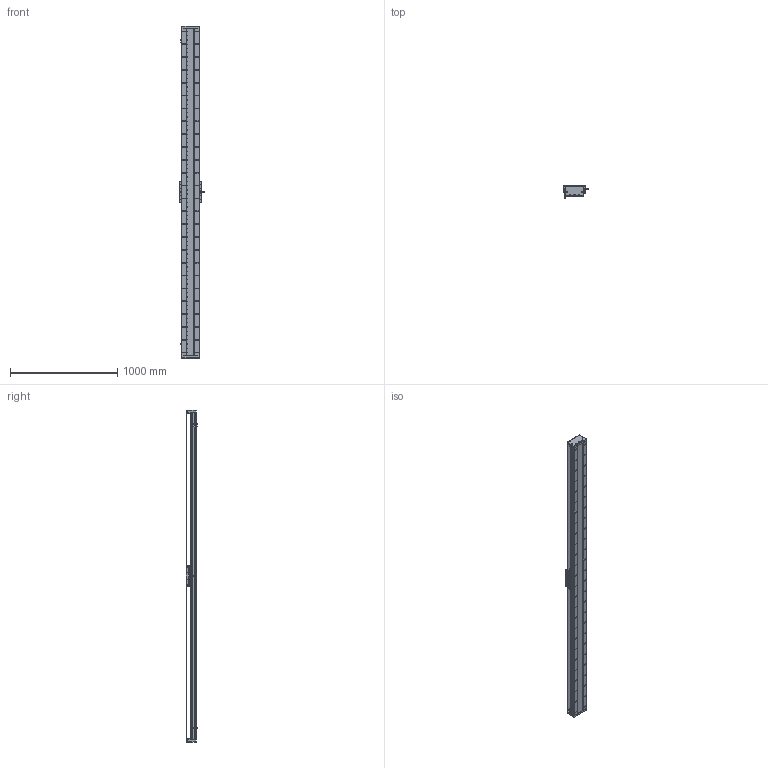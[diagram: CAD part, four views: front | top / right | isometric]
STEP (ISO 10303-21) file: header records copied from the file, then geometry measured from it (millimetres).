
FILE_DESCRIPTION (( 'STEP AP203' ), '1' );
FILE_NAME ('DA-C165-C2-T2820-C010-0.2 直线电机.STEP', '2023-05-11T07:51:56', ( '微软用户' ), ( '微软中国' ), 'SwSTEP 2.0', 'SolidWorks 2019', '' );
FILE_SCHEMA (( 'CONFIG_CONTROL_DESIGN' ));
Length unit declared in the file: millimetre
Products named in the file (18): 葩璃 PM-T45^DA-C165-C2-T-C010-0.2-N 眻盄萇儂; 复件 CU165钢带组件^DA-C165-C2-T-C010-0.2-N 直线电机; IU-CU165-L-00 菁釱_L3060; IU-CU165-L 菁釱絳寢; 珨极趙賑雄怢啣wf-C2; 复件 DMA-010-0.2 读数头^DA-C165-C2-T-C010-0.2-N 直线电机; 复件 六角薄螺母 M3^DA-C165-C2-T-C010-0.2-N 直线电机_GB_FASTENER_NUT_STNAB M3-C; 复件 DA165-GDLK-00 钢带拉块^复件 CU165钢带组件_DA-C165-C2-T-C010-0.2-N 直线电机; 复件 XD-U-02L 磁栅尺^DA-C165-C2-T-C010-0.2-N 直线电机_T; 复件 DA95-HXJ-00 缓冲橡胶^DA-C165-C2-T-C010-0.2-N 直线电机; 复件 DA165-GD-1860-002-00 钢带盖板^复件 CU165钢带组件_DA-C165-C2-T-C010-0.2-N 直线电机; 复件 DA165-GDYK-00 钢带压块^复件 CU165钢带组件_DA-C165-C2-T-C010-0.2-N 直线电机; 葩璃 CKM01-W075-TRL^DA-C165-C2-T-C010-0.2-N 眻盄萇儂; DA-C165-C2-T2820-C010-0.2 眻盄萇儂; 复件 DA165-GD-DG-H-00 端盖^复件 CU165钢带组件_DA-C165-C2-T-C010-0.2-N 直线电机; 复件 CKM02-W075-C1C2-TP-3.0 一体电机-C2^DA-C165-C2-T-C010-0.2-N 直线电机; 葩璃 DA95-GT-T-00^IU-CU165-L 菁釱絳寢_T; 复件 DA165-GYP-00 光电感应片^DA-C165-C2-T-C010-0.2-N 直线电机
Assembly tree (33 placements, depth 3):
  DA-C165-C2-T2820-C010-0.2 眻盄萇儂
    IU-CU165-L 菁釱絳寢
      IU-CU165-L-00 菁釱_L3060
      葩璃 DA95-GT-T-00^IU-CU165-L 菁釱絳寢_T  x4
    复件 XD-U-02L 磁栅尺^DA-C165-C2-T-C010-0.2-N 直线电机_T
    葩璃 PM-T45^DA-C165-C2-T-C010-0.2-N 眻盄萇儂  x3
    葩璃 CKM01-W075-TRL^DA-C165-C2-T-C010-0.2-N 眻盄萇儂
    复件 CU165钢带组件^DA-C165-C2-T-C010-0.2-N 直线电机
      复件 DA165-GD-DG-H-00 端盖^复件 CU165钢带组件_DA-C165-C2-T-C010-0.2-N 直线电机  x2
      复件 DA165-GDYK-00 钢带压块^复件 CU165钢带组件_DA-C165-C2-T-C010-0.2-N 直线电机  x2
      复件 DA165-GD-1860-002-00 钢带盖板^复件 CU165钢带组件_DA-C165-C2-T-C010-0.2-N 直线电机
      复件 DA165-GDLK-00 钢带拉块^复件 CU165钢带组件_DA-C165-C2-T-C010-0.2-N 直线电机  x2
    复件 DA95-HXJ-00 缓冲橡胶^DA-C165-C2-T-C010-0.2-N 直线电机  x4
    复件 DA165-GYP-00 光电感应片^DA-C165-C2-T-C010-0.2-N 直线电机
    复件 DMA-010-0.2 读数头^DA-C165-C2-T-C010-0.2-N 直线电机
    复件 CKM02-W075-C1C2-TP-3.0 一体电机-C2^DA-C165-C2-T-C010-0.2-N 直线电机
    复件 六角薄螺母 M3^DA-C165-C2-T-C010-0.2-N 直线电机_GB_FASTENER_NUT_STNAB M3-C  x6
    珨极趙賑雄怢啣wf-C2
Bounding box: 233 x 111.45 x 3100 mm (x, y, z)
Volume: 16855317.6 mm3; surface area: 5125306.5 mm2
Topology: 70 solids, 70 shells, 4131 faces, 12347 edges, 7921 vertices
Faces by surface type: cylinder 2533, plane 1118, cone 430, torus 46, sphere 4
Entity records: 143761 total; most frequent: CARTESIAN_POINT 40163, ORIENTED_EDGE 21866, DIRECTION 20719, EDGE_CURVE 10933, AXIS2_PLACEMENT_3D 7943, VERTEX_POINT 7157, EDGE_LOOP 4946, VECTOR 4833
